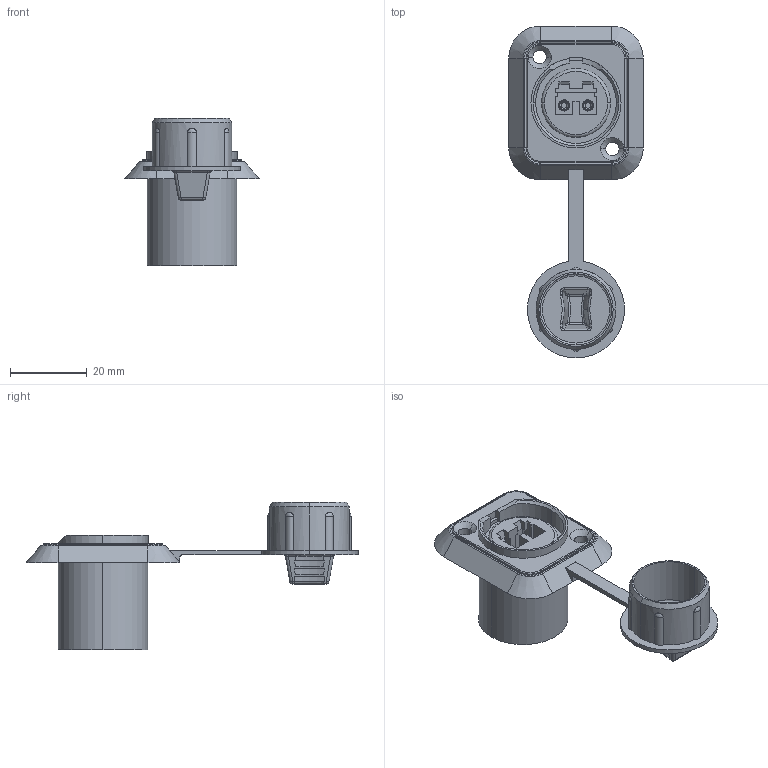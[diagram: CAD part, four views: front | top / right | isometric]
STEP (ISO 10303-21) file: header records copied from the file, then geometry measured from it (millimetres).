
FILE_DESCRIPTION (( 'STEP AP214' ), '1' );
FILE_NAME ('QSEAL-RMN-02CH-XX -R2.STEP', '2025-04-04T00:04:19', ( '' ), ( '' ), 'SwSTEP 2.0', 'SolidWorks 2024', '' );
FILE_SCHEMA (( 'AUTOMOTIVE_DESIGN' ));
Length unit declared in the file: inch
Products named in the file (1): QSEAL-RMN-02CH-XX -R2
Bounding box: 35.18 x 86.8 x 38.68 mm (x, y, z)
Volume: 13146.6 mm3; surface area: 11097.3 mm2
Topology: 1 solids, 2 shells, 473 faces, 1165 edges, 720 vertices
Faces by surface type: plane 187, cylinder 135, torus 59, cone 50, bspline 24, sphere 18
Entity records: 14546 total; most frequent: CARTESIAN_POINT 3402, DIRECTION 2357, ORIENTED_EDGE 2330, EDGE_CURVE 1165, AXIS2_PLACEMENT_3D 869, VERTEX_POINT 720, LINE 619, VECTOR 619
